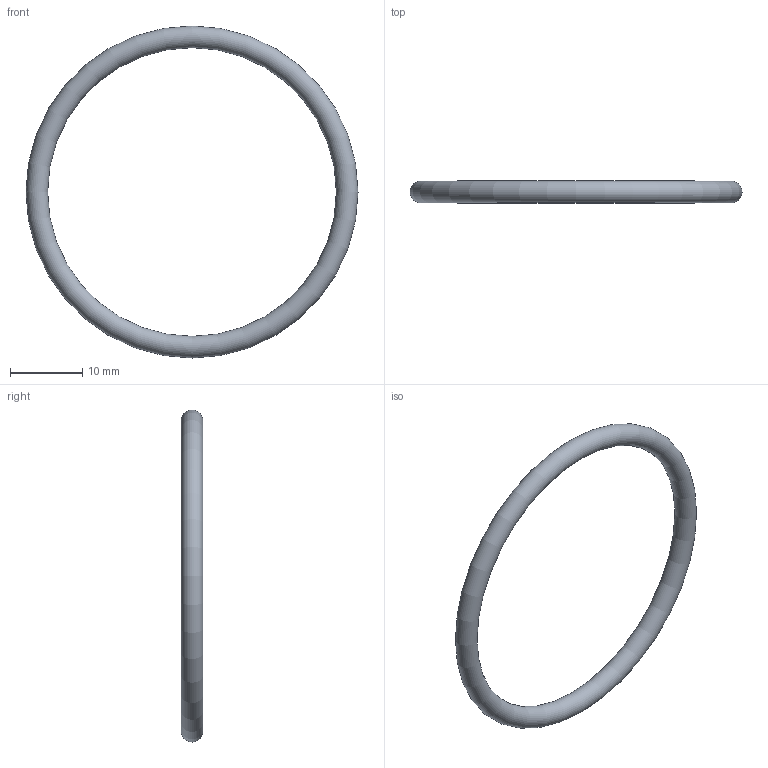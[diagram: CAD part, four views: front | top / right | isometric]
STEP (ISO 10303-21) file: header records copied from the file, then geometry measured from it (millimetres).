
FILE_DESCRIPTION( ( 'STEP AP203' ), '1' );
FILE_NAME( 'C:/Temp/Ganter_Step_05_03_2020/data/3_5/or638/O-Ring OR638-40.00-3.00-70.stp', '2020-03-12T13:44:30', ( 'License CC BY-ND 4.0' ), ( 'CADENAS' ), ' ', 'PARTsolutions', ' ' );
FILE_SCHEMA( ( 'CONFIG_CONTROL_DESIGN' ) );
Length unit declared in the file: millimetre
Products named in the file (1): _O-Ring OR638-40.00-3.00-70
Bounding box: 46 x 3 x 46 mm (x, y, z)
Volume: 954.9 mm3; surface area: 1273.2 mm2
Topology: 1 solids, 1 shells, 1 faces, 2 edges, 1 vertices
Faces by surface type: torus 1
Entity records: 62 total; most frequent: CC_DESIGN_PERSON_AND_ORGANIZATION_ASSIGNMENT 5, PERSON_AND_ORGANIZATION_ROLE 4, DIRECTION 4, CARTESIAN_POINT 3, DATE_TIME_ROLE 2, CC_DESIGN_DATE_AND_TIME_ASSIGNMENT 2, AXIS2_PLACEMENT_3D 2, DIMENSIONAL_EXPONENTS 2
